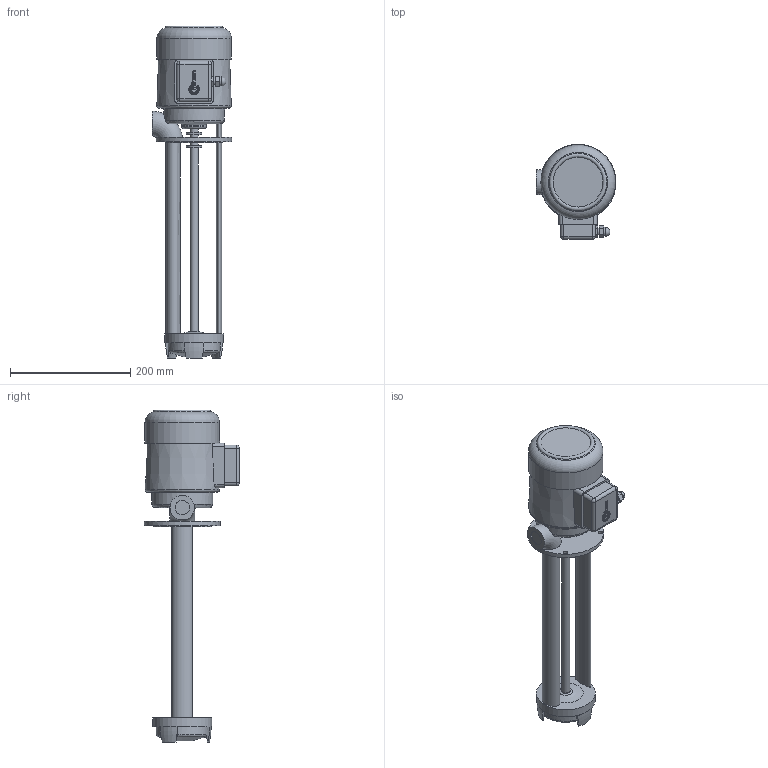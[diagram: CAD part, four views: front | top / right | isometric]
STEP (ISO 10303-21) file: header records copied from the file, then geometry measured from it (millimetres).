
FILE_DESCRIPTION(/* description */ ('Unknown'),/* implementation_level */ '2;1');
FILE_NAME(/* name */ 'CP35S',/* time_stamp */ '2025-05-30T09:29:34+03:00',/* author */ ('Unknown'),/* organization */ ('Unknown'),/* preprocessor_version */ 'ST-DEVELOPER v16.7',/* originating_system */ 'DEX',/* authorisation */ $);
FILE_SCHEMA (('AUTOMOTIVE_DESIGN {1 0 10303 214 3 1 1}'));
Length unit declared in the file: millimetre
Products named in the file (1): CP35S
Bounding box: 133.07 x 158.57 x 552.39 mm (x, y, z)
Volume: 2653524.6 mm3; surface area: 218131.9 mm2
Topology: 1 solids, 1 shells, 213 faces, 530 edges, 348 vertices
Faces by surface type: bspline 69, plane 68, cylinder 48, torus 23, cone 5
Full cylindrical faces by diameter (mm): 7 x4, 12 x1, 13.186 x4, 15 x1, 24 x1, 25.386 x2, 41.386 x1, 96.147 x1, 98 x1, 101.386 x1, 124 x1, 126.147 x1
Entity records: 8667 total; most frequent: CARTESIAN_POINT 4189, ORIENTED_EDGE 956, DIRECTION 723, EDGE_CURVE 478, VERTEX_POINT 336, EDGE_LOOP 298, FACE_BOUND 298, AXIS2_PLACEMENT_3D 272
